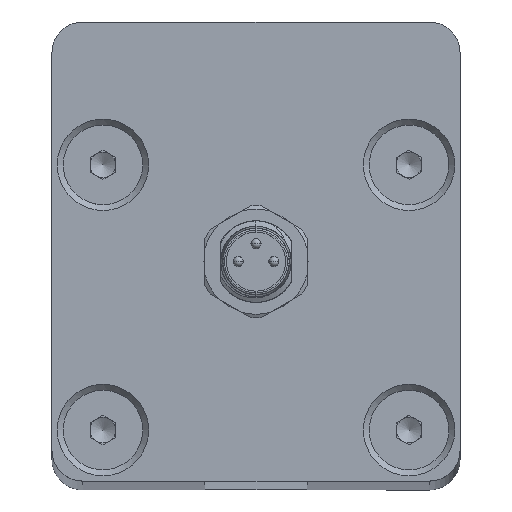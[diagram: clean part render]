
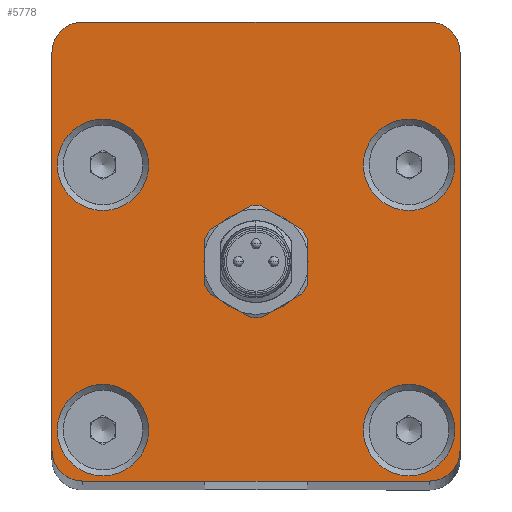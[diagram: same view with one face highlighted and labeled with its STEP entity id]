
A CAD part, top view. The second image highlights one B-rep face of the part: STEP entity #5778.
In plain terms, the highlighted planar face has unit normal (0, 0, 1).
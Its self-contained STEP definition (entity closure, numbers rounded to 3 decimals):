
#11 = VERTEX_POINT ( 'NONE', #7235 ) ;
#15 = FACE_BOUND ( 'NONE', #1079, .T. ) ;
#191 = EDGE_CURVE ( 'NONE', #8801, #9725, #8275, .T. ) ;
#238 = CIRCLE ( 'NONE', #4597, 3. ) ;
#249 = VECTOR ( 'NONE', #8861, 1000. ) ;
#272 = LINE ( 'NONE', #5182, #7794 ) ;
#294 = EDGE_CURVE ( 'NONE', #6719, #3161, #3800, .T. ) ;
#295 = EDGE_CURVE ( 'NONE', #647, #3686, #5627, .T. ) ;
#318 = CARTESIAN_POINT ( 'NONE',  ( -20., 19.5, 3.17 ) ) ;
#326 = AXIS2_PLACEMENT_3D ( 'NONE', #3574, #9026, #6799 ) ;
#492 = CARTESIAN_POINT ( 'NONE',  ( 20., -19.5, 3.17 ) ) ;
#496 = EDGE_CURVE ( 'NONE', #11, #5766, #4517, .T. ) ;
#521 = AXIS2_PLACEMENT_3D ( 'NONE', #6115, #759, #1600 ) ;
#572 = CARTESIAN_POINT ( 'NONE',  ( -17., 19.5, 3.17 ) ) ;
#647 = VERTEX_POINT ( 'NONE', #318 ) ;
#679 = CARTESIAN_POINT ( 'NONE',  ( -17., 22.5, 3.17 ) ) ;
#690 = VERTEX_POINT ( 'NONE', #2221 ) ;
#759 = DIRECTION ( 'NONE',  ( 0., 0., -1. ) ) ;
#782 = VECTOR ( 'NONE', #8166, 1000. ) ;
#836 = CARTESIAN_POINT ( 'NONE',  ( 3.66, -2.848, 3.17 ) ) ;
#848 = DIRECTION ( 'NONE',  ( 1., 0., 0. ) ) ;
#1079 = EDGE_LOOP ( 'NONE', ( #1393 ) ) ;
#1176 = VERTEX_POINT ( 'NONE', #10041 ) ;
#1296 = EDGE_CURVE ( 'NONE', #3161, #5772, #8374, .T. ) ;
#1311 = ORIENTED_EDGE ( 'NONE', *, *, #1911, .F. ) ;
#1393 = ORIENTED_EDGE ( 'NONE', *, *, #4333, .F. ) ;
#1411 = CARTESIAN_POINT ( 'NONE',  ( -10.52, -17.5, 3.17 ) ) ;
#1506 = ORIENTED_EDGE ( 'NONE', *, *, #4877, .F. ) ;
#1600 = DIRECTION ( 'NONE',  ( -1., 0., 0. ) ) ;
#1720 = DIRECTION ( 'NONE',  ( 0., 0., -1. ) ) ;
#1876 = ORIENTED_EDGE ( 'NONE', *, *, #6886, .F. ) ;
#1911 = EDGE_CURVE ( 'NONE', #5772, #4829, #5245, .T. ) ;
#2127 = DIRECTION ( 'NONE',  ( -1., 0., 0. ) ) ;
#2131 = EDGE_CURVE ( 'NONE', #7482, #2743, #238, .T. ) ;
#2156 = EDGE_CURVE ( 'NONE', #2882, #2882, #5470, .T. ) ;
#2180 = AXIS2_PLACEMENT_3D ( 'NONE', #8185, #8966, #4328 ) ;
#2221 = CARTESIAN_POINT ( 'NONE',  ( 19.48, -17.5, 3.17 ) ) ;
#2233 = ORIENTED_EDGE ( 'NONE', *, *, #9760, .F. ) ;
#2271 = CIRCLE ( 'NONE', #326, 4.48 ) ;
#2365 = ORIENTED_EDGE ( 'NONE', *, *, #9844, .F. ) ;
#2743 = VERTEX_POINT ( 'NONE', #6095 ) ;
#2748 = CARTESIAN_POINT ( 'NONE',  ( -17., 22.5, 3.17 ) ) ;
#2813 = VECTOR ( 'NONE', #4527, 1000. ) ;
#2850 = LINE ( 'NONE', #5771, #782 ) ;
#2882 = VERTEX_POINT ( 'NONE', #6177 ) ;
#3010 = EDGE_CURVE ( 'NONE', #4829, #6719, #2850, .T. ) ;
#3018 = CARTESIAN_POINT ( 'NONE',  ( 20., 19.5, 3.17 ) ) ;
#3077 = DIRECTION ( 'NONE',  ( 0., 1., 0. ) ) ;
#3161 = VERTEX_POINT ( 'NONE', #3651 ) ;
#3299 = CIRCLE ( 'NONE', #9981, 4.48 ) ;
#3315 = CARTESIAN_POINT ( 'NONE',  ( -15., 8.5, 3.17 ) ) ;
#3420 = FACE_OUTER_BOUND ( 'NONE', #9737, .T. ) ;
#3450 = AXIS2_PLACEMENT_3D ( 'NONE', #6406, #1720, #8673 ) ;
#3536 = CARTESIAN_POINT ( 'NONE',  ( -3.66, -2.848, 3.17 ) ) ;
#3550 = CARTESIAN_POINT ( 'NONE',  ( -20., -19.5, 3.17 ) ) ;
#3574 = CARTESIAN_POINT ( 'NONE',  ( 15., -17.5, 3.17 ) ) ;
#3627 = DIRECTION ( 'NONE',  ( 1., 0., 0. ) ) ;
#3651 = CARTESIAN_POINT ( 'NONE',  ( -3.66, 0.848, 3.17 ) ) ;
#3653 = FACE_BOUND ( 'NONE', #8257, .T. ) ;
#3686 = VERTEX_POINT ( 'NONE', #2748 ) ;
#3762 = DIRECTION ( 'NONE',  ( -1., 0., 0. ) ) ;
#3800 = CIRCLE ( 'NONE', #5535, 4.1 ) ;
#3803 = EDGE_CURVE ( 'NONE', #2743, #11, #272, .T. ) ;
#3820 = CARTESIAN_POINT ( 'NONE',  ( 20., 19.5, 3.17 ) ) ;
#3844 = DIRECTION ( 'NONE',  ( 1., 0., 0. ) ) ;
#3926 = CARTESIAN_POINT ( 'NONE',  ( 15., 8.5, 3.17 ) ) ;
#4096 = CARTESIAN_POINT ( 'NONE',  ( -15., -17.5, 3.17 ) ) ;
#4150 = DIRECTION ( 'NONE',  ( 1., 0., 0. ) ) ;
#4328 = DIRECTION ( 'NONE',  ( -1., 0., 0. ) ) ;
#4333 = EDGE_CURVE ( 'NONE', #6890, #6890, #7785, .T. ) ;
#4337 = LINE ( 'NONE', #3018, #6518 ) ;
#4388 = EDGE_LOOP ( 'NONE', ( #2233 ) ) ;
#4406 = AXIS2_PLACEMENT_3D ( 'NONE', #572, #5994, #2127 ) ;
#4411 = DIRECTION ( 'NONE',  ( -1., 0., 0. ) ) ;
#4419 = DIRECTION ( 'NONE',  ( 0., 0., 1. ) ) ;
#4439 = CARTESIAN_POINT ( 'NONE',  ( -3.66, -2.848, 3.17 ) ) ;
#4517 = CIRCLE ( 'NONE', #3450, 3. ) ;
#4527 = DIRECTION ( 'NONE',  ( 1., 0., 0. ) ) ;
#4597 = AXIS2_PLACEMENT_3D ( 'NONE', #7625, #8471, #3762 ) ;
#4656 = ORIENTED_EDGE ( 'NONE', *, *, #496, .F. ) ;
#4660 = DIRECTION ( 'NONE',  ( 0., 0., 1. ) ) ;
#4793 = EDGE_CURVE ( 'NONE', #3686, #8801, #9716, .T. ) ;
#4820 = ORIENTED_EDGE ( 'NONE', *, *, #4793, .F. ) ;
#4829 = VERTEX_POINT ( 'NONE', #836 ) ;
#4838 = DIRECTION ( 'NONE',  ( 0., 0., 1. ) ) ;
#4877 = EDGE_CURVE ( 'NONE', #1176, #1176, #3299, .T. ) ;
#5014 = ORIENTED_EDGE ( 'NONE', *, *, #295, .F. ) ;
#5148 = AXIS2_PLACEMENT_3D ( 'NONE', #3926, #5498, #848 ) ;
#5182 = CARTESIAN_POINT ( 'NONE',  ( 17., -22.5, 3.17 ) ) ;
#5238 = PLANE ( 'NONE',  #4406 ) ;
#5245 = CIRCLE ( 'NONE', #9301, 4.1 ) ;
#5469 = EDGE_LOOP ( 'NONE', ( #1506 ) ) ;
#5470 = CIRCLE ( 'NONE', #5148, 4.48 ) ;
#5498 = DIRECTION ( 'NONE',  ( 0., 0., 1. ) ) ;
#5535 = AXIS2_PLACEMENT_3D ( 'NONE', #9236, #4660, #3844 ) ;
#5627 = CIRCLE ( 'NONE', #521, 3. ) ;
#5766 = VERTEX_POINT ( 'NONE', #3550 ) ;
#5771 = CARTESIAN_POINT ( 'NONE',  ( 3.66, -2.848, 3.17 ) ) ;
#5772 = VERTEX_POINT ( 'NONE', #4439 ) ;
#5778 = ADVANCED_FACE ( 'NONE', ( #3653, #8146, #7319, #15, #3420, #6086 ), #5238, .F. ) ;
#5994 = DIRECTION ( 'NONE',  ( 0., 0., -1. ) ) ;
#6057 = ORIENTED_EDGE ( 'NONE', *, *, #2131, .F. ) ;
#6086 = FACE_BOUND ( 'NONE', #4388, .T. ) ;
#6095 = CARTESIAN_POINT ( 'NONE',  ( 17., -22.5, 3.17 ) ) ;
#6099 = ORIENTED_EDGE ( 'NONE', *, *, #294, .F. ) ;
#6115 = CARTESIAN_POINT ( 'NONE',  ( -17., 19.5, 3.17 ) ) ;
#6177 = CARTESIAN_POINT ( 'NONE',  ( 19.48, 8.5, 3.17 ) ) ;
#6271 = AXIS2_PLACEMENT_3D ( 'NONE', #4096, #9532, #6379 ) ;
#6273 = CARTESIAN_POINT ( 'NONE',  ( 17., 22.5, 3.17 ) ) ;
#6379 = DIRECTION ( 'NONE',  ( 1., 0., 0. ) ) ;
#6406 = CARTESIAN_POINT ( 'NONE',  ( -17., -19.5, 3.17 ) ) ;
#6518 = VECTOR ( 'NONE', #9261, 1000. ) ;
#6589 = ORIENTED_EDGE ( 'NONE', *, *, #191, .F. ) ;
#6719 = VERTEX_POINT ( 'NONE', #9719 ) ;
#6799 = DIRECTION ( 'NONE',  ( 1., 0., 0. ) ) ;
#6886 = EDGE_CURVE ( 'NONE', #5766, #647, #9476, .T. ) ;
#6890 = VERTEX_POINT ( 'NONE', #1411 ) ;
#7235 = CARTESIAN_POINT ( 'NONE',  ( -17., -22.5, 3.17 ) ) ;
#7319 = FACE_BOUND ( 'NONE', #8506, .T. ) ;
#7482 = VERTEX_POINT ( 'NONE', #492 ) ;
#7625 = CARTESIAN_POINT ( 'NONE',  ( 17., -19.5, 3.17 ) ) ;
#7687 = CARTESIAN_POINT ( 'NONE',  ( -20., -19.5, 3.17 ) ) ;
#7785 = CIRCLE ( 'NONE', #6271, 4.48 ) ;
#7794 = VECTOR ( 'NONE', #4411, 1000. ) ;
#8146 = FACE_BOUND ( 'NONE', #5469, .T. ) ;
#8166 = DIRECTION ( 'NONE',  ( 0., 1., 0. ) ) ;
#8185 = CARTESIAN_POINT ( 'NONE',  ( 17., 19.5, 3.17 ) ) ;
#8257 = EDGE_LOOP ( 'NONE', ( #8843, #1311, #9896, #6099 ) ) ;
#8275 = CIRCLE ( 'NONE', #2180, 3. ) ;
#8374 = LINE ( 'NONE', #3536, #249 ) ;
#8471 = DIRECTION ( 'NONE',  ( 0., 0., -1. ) ) ;
#8506 = EDGE_LOOP ( 'NONE', ( #8780 ) ) ;
#8673 = DIRECTION ( 'NONE',  ( -1., 0., 0. ) ) ;
#8780 = ORIENTED_EDGE ( 'NONE', *, *, #2156, .F. ) ;
#8801 = VERTEX_POINT ( 'NONE', #6273 ) ;
#8843 = ORIENTED_EDGE ( 'NONE', *, *, #3010, .F. ) ;
#8861 = DIRECTION ( 'NONE',  ( 0., -1., 0. ) ) ;
#8966 = DIRECTION ( 'NONE',  ( 0., 0., -1. ) ) ;
#9026 = DIRECTION ( 'NONE',  ( 0., 0., 1. ) ) ;
#9236 = CARTESIAN_POINT ( 'NONE',  ( 0., -1., 3.17 ) ) ;
#9261 = DIRECTION ( 'NONE',  ( 0., -1., 0. ) ) ;
#9269 = ORIENTED_EDGE ( 'NONE', *, *, #3803, .F. ) ;
#9301 = AXIS2_PLACEMENT_3D ( 'NONE', #9872, #4419, #3627 ) ;
#9476 = LINE ( 'NONE', #7687, #9593 ) ;
#9532 = DIRECTION ( 'NONE',  ( 0., 0., 1. ) ) ;
#9593 = VECTOR ( 'NONE', #3077, 1000. ) ;
#9716 = LINE ( 'NONE', #679, #2813 ) ;
#9719 = CARTESIAN_POINT ( 'NONE',  ( 3.66, 0.848, 3.17 ) ) ;
#9725 = VERTEX_POINT ( 'NONE', #3820 ) ;
#9737 = EDGE_LOOP ( 'NONE', ( #5014, #1876, #4656, #9269, #6057, #2365, #6589, #4820 ) ) ;
#9760 = EDGE_CURVE ( 'NONE', #690, #690, #2271, .T. ) ;
#9844 = EDGE_CURVE ( 'NONE', #9725, #7482, #4337, .T. ) ;
#9872 = CARTESIAN_POINT ( 'NONE',  ( 0., -1., 3.17 ) ) ;
#9896 = ORIENTED_EDGE ( 'NONE', *, *, #1296, .F. ) ;
#9981 = AXIS2_PLACEMENT_3D ( 'NONE', #3315, #4838, #4150 ) ;
#10041 = CARTESIAN_POINT ( 'NONE',  ( -10.52, 8.5, 3.17 ) ) ;
